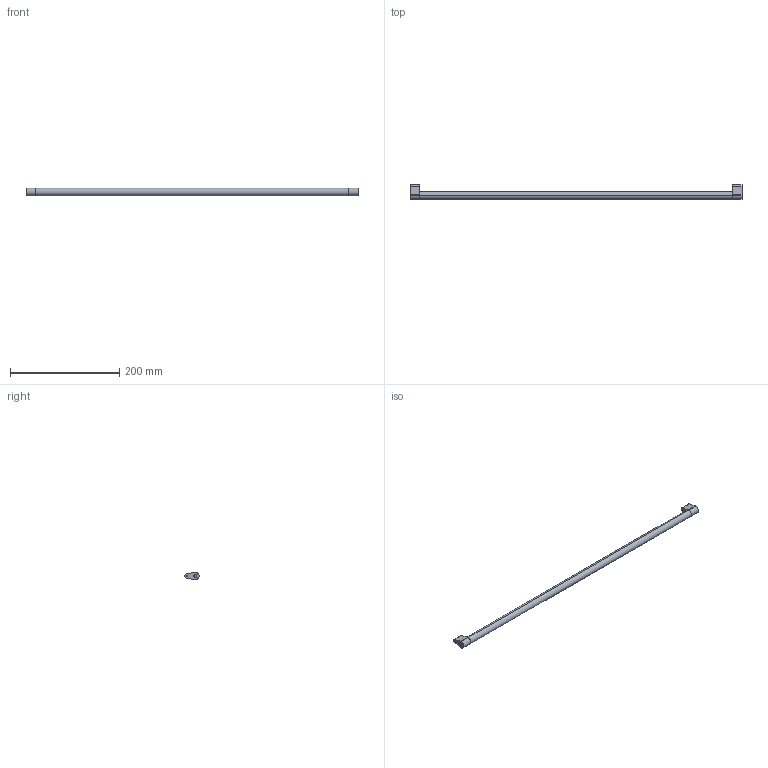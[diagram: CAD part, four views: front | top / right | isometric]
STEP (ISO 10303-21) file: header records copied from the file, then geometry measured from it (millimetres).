
FILE_DESCRIPTION (( 'STEP AP214' ), '1' );
FILE_NAME ('_Synchronisationseinheit Nova Pro KAB700_S19.step', '2010-07-08T13:58:45', ( 'grass' ), ( '' ), 'SwSTEP 2.0', 'SolidWorks 2010', '' );
FILE_SCHEMA (( 'AUTOMOTIVE_DESIGN' ));
Length unit declared in the file: millimetre
Products named in the file (1): _Synchronisationseinheit Nova Pro KAB700_S19
Bounding box: 609 x 26.5 x 14 mm (x, y, z)
Volume: 97435.1 mm3; surface area: 29632.2 mm2
Topology: 3 solids, 3 shells, 36 faces, 78 edges, 52 vertices
Faces by surface type: cylinder 18, plane 18
Entity records: 1050 total; most frequent: DIRECTION 188, CARTESIAN_POINT 167, ORIENTED_EDGE 156, EDGE_CURVE 78, AXIS2_PLACEMENT_3D 73, VERTEX_POINT 52, VECTOR 42, LINE 42
